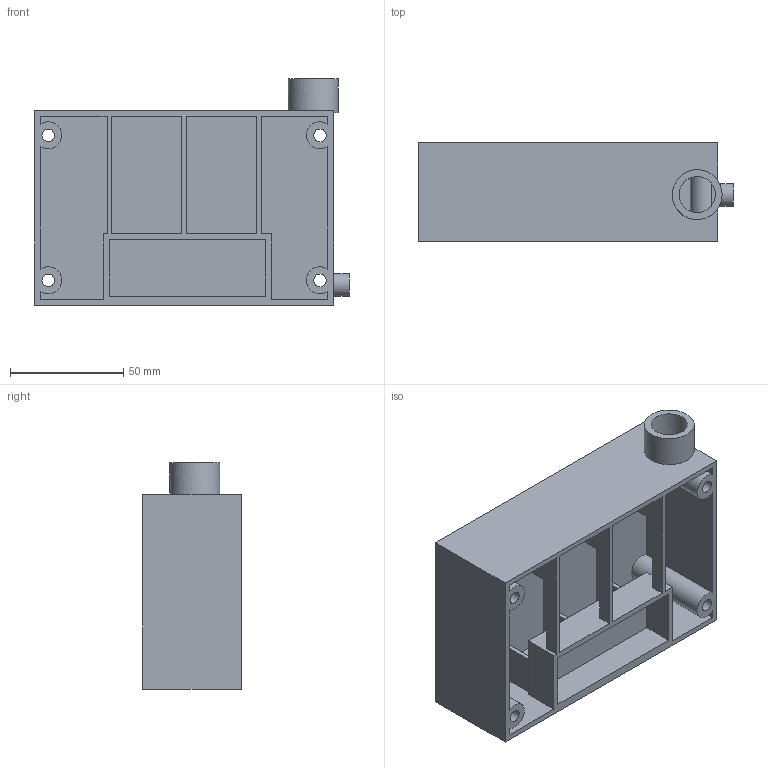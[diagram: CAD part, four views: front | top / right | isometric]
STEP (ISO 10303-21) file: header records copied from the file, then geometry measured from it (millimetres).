
FILE_DESCRIPTION(('Open CASCADE Model'),'2;1');
FILE_NAME('Open CASCADE Shape Model','2026-10-13T15:24:31',('Author'),( 'Open CASCADE'),'Open CASCADE STEP processor 8.0','build123d', 'Unknown');
FILE_SCHEMA(('AUTOMOTIVE_DESIGN { 1 0 10303 214 1 1 1 1 }'));
Length unit declared in the file: millimetre
Products named in the file (1): COMPOUND
Bounding box: 139 x 43.5 x 100 mm (x, y, z)
Volume: 105098.1 mm3; surface area: 83674.5 mm2
Topology: 1 solids, 1 shells, 82 faces, 252 edges, 168 vertices
Faces by surface type: plane 66, cylinder 16
Full cylindrical faces by diameter (mm): 4.2 x1, 5.5 x4, 10 x5, 16 x1, 22 x1
Entity records: 5991 total; most frequent: CARTESIAN_POINT 1428, DIRECTION 687, ORIENTED_EDGE 504, PCURVE 504, DEFINITIONAL_REPRESENTATION 504, LINE 423, VECTOR 423, B_SPLINE_CURVE_WITH_KNOTS 259
